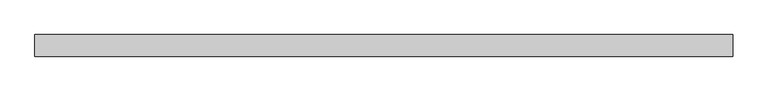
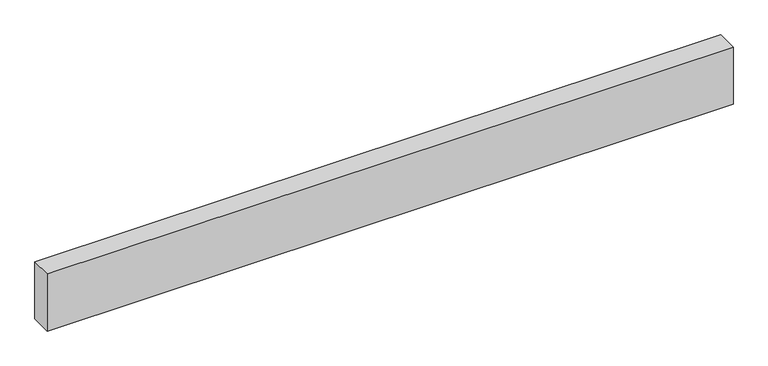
"""IFC4 building model written with IfcOpenShell, lengths in millimetres: proxy geometry."""

from ifc_helpers import new_model, si_unit, frame, origin, place, context, project, spatial, polyline, outline, extrude, source, transform, mapped, element, save


def structural_framing_f427761b(model_context):
    return source(origin(), model_context, "Body", "SweptSolid", [
        extrude(outline(polyline([(-2262.85, -70.0), (-2262.85, 70.0), (2262.85, 70.0), (2262.85, -70.0), (-2262.85, -70.0)])), frame((0.0, 0.0, -400.0), z_axis=(0.0, 0.0, 1.0), x_axis=(1.0, 0.0, 0.0)), (0.0, 0.0, 1.0), 400.0),
    ])


if __name__ == "__main__":
    model = new_model("IFC4")
    model_context = context("Model", 3, world=origin())
    ifc_project = project(units=[si_unit("LENGTHUNIT", "METRE", prefix="MILLI")], contexts=[model_context])
    site = spatial("IfcSite", under=ifc_project)
    building = spatial("IfcBuilding", under=site)
    placement = place(None, origin())
    structural_framing_shape = structural_framing_f427761b(model_context)
    element("IfcBuildingElementProxy", 1, Name="Structural Framing", at=placement, inside=building, context=model_context, shape_type="MappedRepresentation", body=[
        mapped(structural_framing_shape, transform((0.0, 0.0, 0.0), x_axis=(1.0, 0.0, 0.0), y_axis=(0.0, 1.0, 0.0), z_axis=(0.0, 0.0, 1.0))),
    ])
    save(model, "model.ifc")
